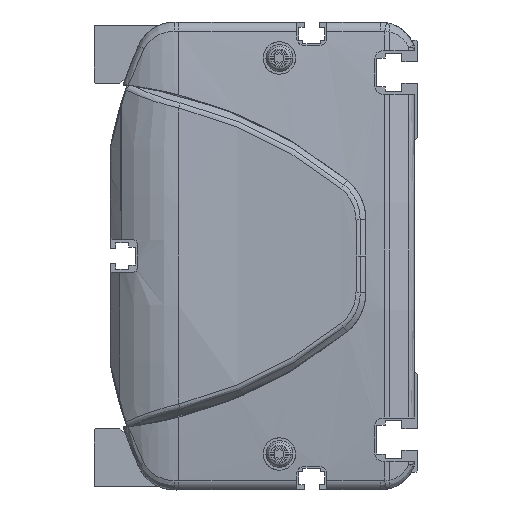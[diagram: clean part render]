
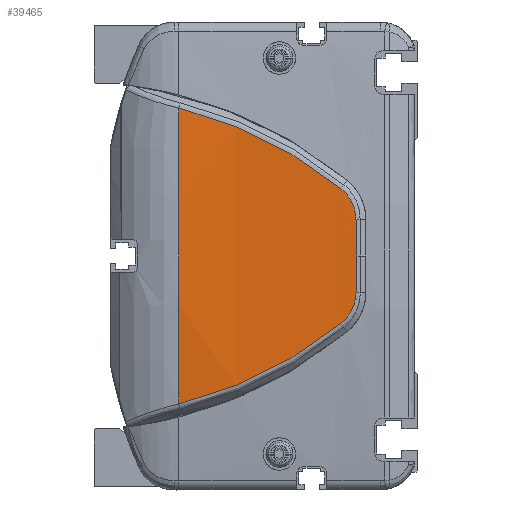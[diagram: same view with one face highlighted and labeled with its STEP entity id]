
A CAD part, left-side view. The second image highlights one B-rep face of the part: STEP entity #39465.
In plain terms, the highlighted cylindrical face has radius 500 mm (diameter 1000 mm), a partial arc.
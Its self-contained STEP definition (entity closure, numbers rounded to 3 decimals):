
#35717=CARTESIAN_POINT('',(486.,66.362,0.));
#35718=DIRECTION('',(0.,-1.,0.));
#35719=DIRECTION('',(-0.997,0.,0.082));
#35720=AXIS2_PLACEMENT_3D('',#35717,#35718,#35719);
#36600=CARTESIAN_POINT('',(-13.648,21.313,
-18.759));
#36601=CARTESIAN_POINT('',(-13.449,27.904,
-24.058));
#36602=CARTESIAN_POINT('',(-12.934,42.195,
-33.27));
#36603=CARTESIAN_POINT('',(-12.471,58.156,
-39.127));
#36604=CARTESIAN_POINT('',(-12.306,66.362,
-41.121));
#36606=CARTESIAN_POINT('',(-12.306,66.362,
41.121));
#36607=CARTESIAN_POINT('',(-12.471,58.156,
39.127));
#36608=CARTESIAN_POINT('',(-12.934,42.195,
33.27));
#36609=CARTESIAN_POINT('',(-13.449,27.904,
24.058));
#36610=CARTESIAN_POINT('',(-13.648,21.313,
18.759));
#36612=CARTESIAN_POINT('',(-13.648,21.313,
18.759));
#36613=CARTESIAN_POINT('',(-13.686,20.035,
17.736));
#36614=CARTESIAN_POINT('',(-13.779,17.936,
15.107));
#36615=CARTESIAN_POINT('',(-13.863,17.152,
11.827));
#36616=CARTESIAN_POINT('',(-13.896,17.124,
10.178));
#36618=CARTESIAN_POINT('',(-13.896,17.124,
10.178));
#36619=CARTESIAN_POINT('',(-13.92,17.107,
9.026));
#36620=CARTESIAN_POINT('',(-13.959,17.067,
6.735));
#36621=CARTESIAN_POINT('',(-13.993,16.98,
3.341));
#36622=CARTESIAN_POINT('',(-14.,16.898,
1.109));
#36623=CARTESIAN_POINT('',(-14.,16.849,
0.));
#36625=CARTESIAN_POINT('',(-14.,16.849,
0.));
#36626=CARTESIAN_POINT('',(-14.,16.898,
-1.109));
#36627=CARTESIAN_POINT('',(-13.993,16.98,
-3.341));
#36628=CARTESIAN_POINT('',(-13.959,17.067,
-6.734));
#36629=CARTESIAN_POINT('',(-13.92,17.107,
-9.028));
#36630=CARTESIAN_POINT('',(-13.896,17.124,
-10.18));
#36632=CARTESIAN_POINT('',(-13.896,17.124,
-10.18));
#36633=CARTESIAN_POINT('',(-13.863,17.152,
-11.828));
#36634=CARTESIAN_POINT('',(-13.779,17.937,
-15.109));
#36635=CARTESIAN_POINT('',(-13.686,20.035,
-17.736));
#36636=CARTESIAN_POINT('',(-13.648,21.313,
-18.759));
#37287=VERTEX_POINT('',#36600);
#37288=VERTEX_POINT('',#36604);
#37289=CARTESIAN_POINT('',(-12.306,66.362,
41.121));
#37290=VERTEX_POINT('',#37289);
#37291=VERTEX_POINT('',#36610);
#37292=VERTEX_POINT('',#36616);
#37293=VERTEX_POINT('',#36623);
#37294=VERTEX_POINT('',#36630);
#39446=CARTESIAN_POINT('',(486.,8.006,0.));
#39447=DIRECTION('',(0.,1.,0.));
#39448=DIRECTION('',(1.,0.,0.));
#39449=AXIS2_PLACEMENT_3D('',#39446,#39447,#39448);
#39450=CYLINDRICAL_SURFACE('',#39449,500.);
#39452=ORIENTED_EDGE('',*,*,#39451,.T.);
#39453=ORIENTED_EDGE('',*,*,#38089,.F.);
#39455=ORIENTED_EDGE('',*,*,#39454,.T.);
#39457=ORIENTED_EDGE('',*,*,#39456,.T.);
#39459=ORIENTED_EDGE('',*,*,#39458,.T.);
#39461=ORIENTED_EDGE('',*,*,#39460,.T.);
#39462=ORIENTED_EDGE('',*,*,#39436,.T.);
#39463=EDGE_LOOP('',(#39452,#39453,#39455,#39457,#39459,#39461,#39462));
#39464=FACE_OUTER_BOUND('',#39463,.F.);
#39465=ADVANCED_FACE('',(#39464),#39450,.T.);
#35721=CIRCLE('',#35720,500.);
#36605=B_SPLINE_CURVE_WITH_KNOTS('',3,(#36600,#36601,#36602,#36603,#36604),
.UNSPECIFIED.,.F.,.F.,(4,1,4),(0.,0.5,1.),.UNSPECIFIED.);
#36611=B_SPLINE_CURVE_WITH_KNOTS('',3,(#36606,#36607,#36608,#36609,#36610),
.UNSPECIFIED.,.F.,.F.,(4,1,4),(0.,0.5,1.),.UNSPECIFIED.);
#36617=B_SPLINE_CURVE_WITH_KNOTS('',3,(#36612,#36613,#36614,#36615,#36616),
.UNSPECIFIED.,.F.,.F.,(4,1,4),(0.,0.5,1.),.UNSPECIFIED.);
#36624=B_SPLINE_CURVE_WITH_KNOTS('',3,(#36618,#36619,#36620,#36621,#36622,
#36623),.UNSPECIFIED.,.F.,.F.,(4,1,1,4),(0.,0.333,
0.667,1.),.UNSPECIFIED.);
#36631=B_SPLINE_CURVE_WITH_KNOTS('',3,(#36625,#36626,#36627,#36628,#36629,
#36630),.UNSPECIFIED.,.F.,.F.,(4,1,1,4),(0.,0.333,
0.667,1.),.UNSPECIFIED.);
#36637=B_SPLINE_CURVE_WITH_KNOTS('',3,(#36632,#36633,#36634,#36635,#36636),
.UNSPECIFIED.,.F.,.F.,(4,1,4),(0.,0.5,1.),.UNSPECIFIED.);
#38089=EDGE_CURVE('',#37290,#37288,#35721,.T.);
#39436=EDGE_CURVE('',#37294,#37287,#36637,.T.);
#39451=EDGE_CURVE('',#37287,#37288,#36605,.T.);
#39454=EDGE_CURVE('',#37290,#37291,#36611,.T.);
#39456=EDGE_CURVE('',#37291,#37292,#36617,.T.);
#39458=EDGE_CURVE('',#37292,#37293,#36624,.T.);
#39460=EDGE_CURVE('',#37293,#37294,#36631,.T.);
